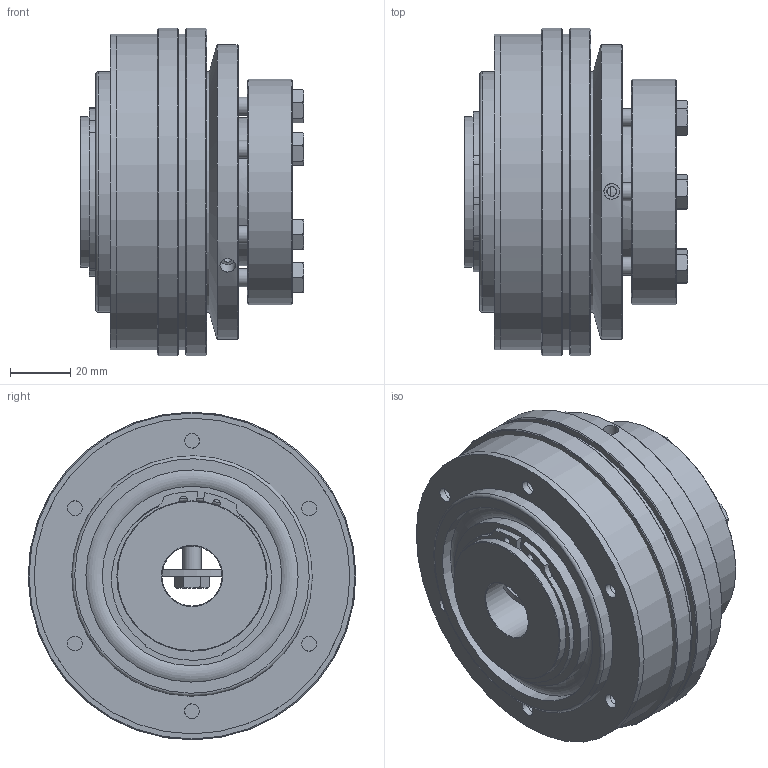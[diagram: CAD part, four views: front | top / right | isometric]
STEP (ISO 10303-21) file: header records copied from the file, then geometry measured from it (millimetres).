
FILE_DESCRIPTION( ( 'Unknown' ), '1' );
FILE_NAME( 'C:/Dokumente und Einstellungen/Sven/Desktop/hp kbk/KBK L-A-200.stp', 'Unknown', ( 'Unknown' ), ( 'Unknown' ), 'XStep 1.0', 'Unknown', ' ' );
FILE_SCHEMA( ( 'automotive_design' ) );
Length unit declared in the file: millimetre
Products named in the file (12): Assem1; Assem2; ball_bearing_-_6010_0_01; ball_bearing_-_6010_0_02; ball_bearing_-_6010_0_03; Stellring 200; Druckring 200; a_50; KBK L-A-200 Grundkörper; Flansch 200; din_en_24017_m6x25_0; Druckring L-A-200
Bounding box: 74.5 x 109 x 109 mm (x, y, z)
Volume: 833833.3 mm3; surface area: 275627.7 mm2
Topology: 28 solids, 28 shells, 483 faces, 1014 edges, 648 vertices
Faces by surface type: plane 199, cylinder 144, cone 108, torus 32
Full cylindrical faces by diameter (mm): 2.5 x4, 3.242 x6, 4.917 x24, 5.2 x12, 6 x7, 6.6 x12, 8.8 x7, 20 x2, 47 x2, 49.29 x2, 50 x7, 59.7 x6, 62 x2, 66 x4, 70.6 x6, 72 x2, 75 x2, 77 x2, 80 x5, 90 x2, 98 x2, 105 x4, 109 x2
Entity records: 4985 total; most frequent: CARTESIAN_POINT 1097, DIRECTION 816, ORIENTED_EDGE 530, AXIS2_PLACEMENT_3D 382, EDGE_LOOP 324, EDGE_CURVE 265, FACE_OUTER_BOUND 240, VERTEX_POINT 217
